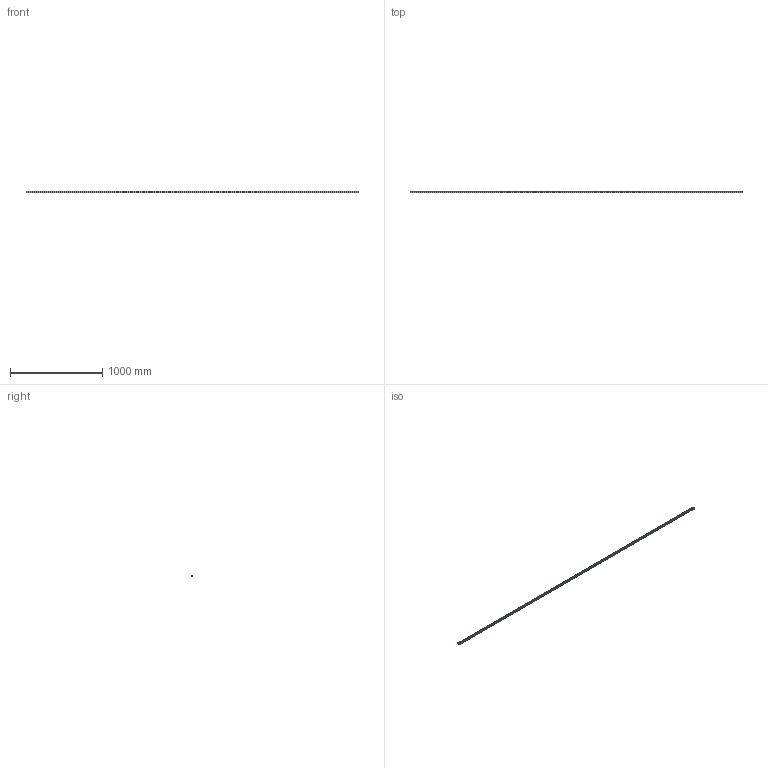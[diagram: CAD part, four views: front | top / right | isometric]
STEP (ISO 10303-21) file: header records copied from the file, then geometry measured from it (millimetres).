
FILE_DESCRIPTION (( 'STEP AP203' ), '1' );
FILE_NAME ('L1018.20R-3600.step', '2023-08-06T09:18:27', ( '' ), ( '' ), 'SwSTEP 2.0', 'SolidWorks 2019', '' );
FILE_SCHEMA (( 'CONFIG_CONTROL_DESIGN' ));
Length unit declared in the file: millimetre
Products named in the file (1): L1018.20R-3600
Bounding box: 3600 x 19.3 x 20 mm (x, y, z)
Volume: 1141661.8 mm3; surface area: 304462.2 mm2
Topology: 1 solids, 1 shells, 569 faces, 1281 edges, 714 vertices
Faces by surface type: cylinder 243, cone 240, plane 86
Entity records: 15038 total; most frequent: DIRECTION 2907, CARTESIAN_POINT 2445, ORIENTED_EDGE 2322, AXIS2_PLACEMENT_3D 1176, EDGE_CURVE 1161, VERTEX_POINT 714, EDGE_LOOP 689, CIRCLE 606
